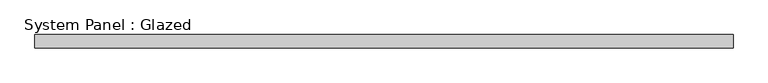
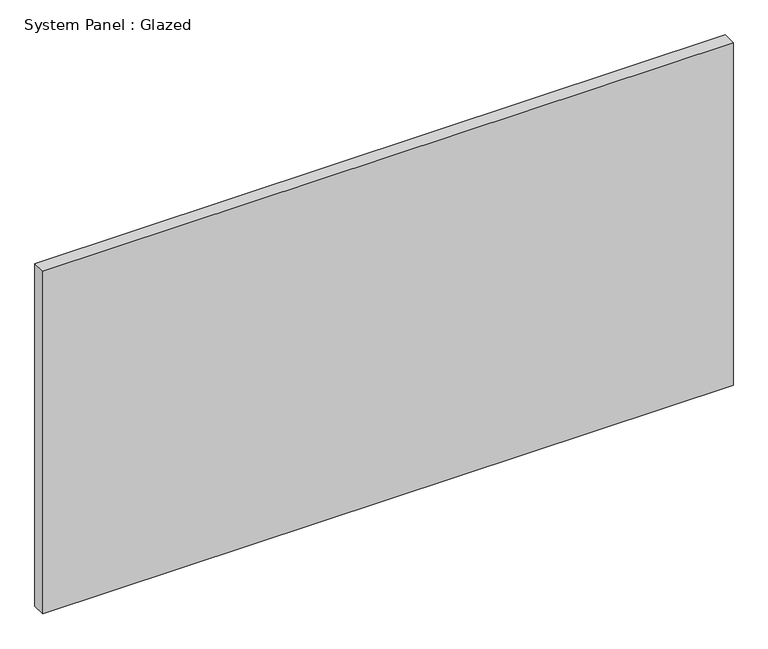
"""IFC4 building model written with IfcOpenShell, lengths in millimetres: plate geometry, System Panel : Glazed."""

from ifc_helpers import new_model, si_unit, origin, origin_with_axes, place, context, project, spatial, polyline, outline, extrude, source, transform, mapped, element, save


def system_panel_glazed_0d58ddbb(model_context):
    return source(origin(), model_context, "Body", "SweptSolid", [
        extrude(outline(polyline([(643.3333333, 24.5), (-643.3333333, 24.5), (-643.3333333, 49.5), (643.3333333, 49.5), (643.3333333, 24.5)])), origin_with_axes(), (0.0, 0.0, 1.0), 675.0),
    ])


if __name__ == "__main__":
    model = new_model("IFC4")
    model_context = context("Model", 3, world=origin())
    ifc_project = project(units=[si_unit("LENGTHUNIT", "METRE", prefix="MILLI")], contexts=[model_context])
    site = spatial("IfcSite", under=ifc_project)
    building = spatial("IfcBuilding", under=site)
    placement = place(None, origin())
    system_panel_glazed_shape = system_panel_glazed_0d58ddbb(model_context)
    element("IfcPlate", 1, ObjectType="System Panel : Glazed", at=placement, inside=building, context=model_context, shape_type="MappedRepresentation", body=[
        mapped(system_panel_glazed_shape, transform((0.0, 0.0, 0.0), x_axis=(1.0, 0.0, 0.0), y_axis=(0.0, 1.0, 0.0), z_axis=(0.0, 0.0, 1.0))),
    ])
    save(model, "model.ifc")
